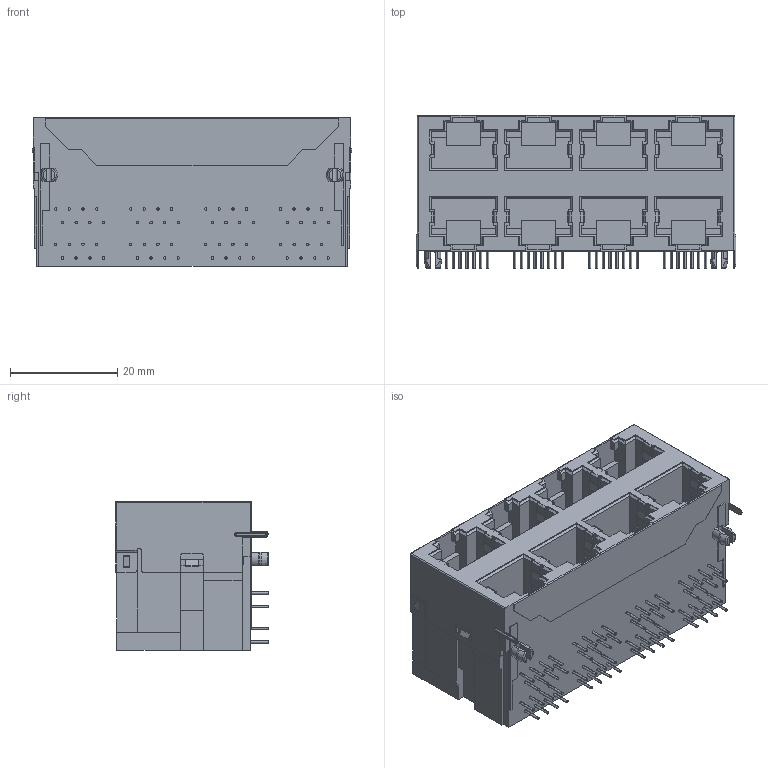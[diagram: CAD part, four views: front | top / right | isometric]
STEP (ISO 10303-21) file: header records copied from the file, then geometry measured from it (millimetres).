
FILE_DESCRIPTION (( 'STEP AP203' ), '1' );
FILE_NAME ('HC-RJ45-059A-2x4-7 (半包-HCTL)（英文）.STEP', '2026-03-20T08:26:09', ( '' ), ( '' ), 'SwSTEP 2.0', 'SolidWorks 2025', '' );
FILE_SCHEMA (( 'CONFIG_CONTROL_DESIGN' ));
Length unit declared in the file: millimetre
Products named in the file (1): HC-RJ45-059A-2x4-7 (半包-HCTL)（英文）
Bounding box: 59.6 x 28.5 x 27.75 mm (x, y, z)
Volume: 32521 mm3; surface area: 12355.3 mm2
Topology: 1 solids, 1 shells, 1212 faces, 3186 edges, 2042 vertices
Faces by surface type: plane 882, cylinder 308, torus 12, cone 8, sphere 2
Entity records: 37003 total; most frequent: CARTESIAN_POINT 6581, ORIENTED_EDGE 6368, DIRECTION 6218, EDGE_CURVE 3184, VECTOR 2492, LINE 2492, VERTEX_POINT 2042, AXIS2_PLACEMENT_3D 1863
